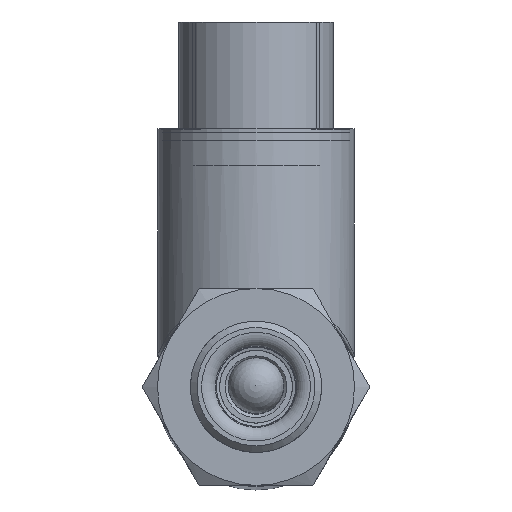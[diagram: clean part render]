
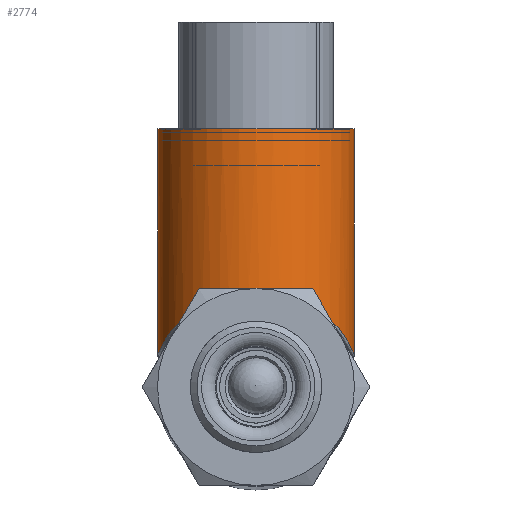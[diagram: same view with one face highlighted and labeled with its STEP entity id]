
A CAD part, top view. The second image highlights one B-rep face of the part: STEP entity #2774.
In plain terms, the highlighted cylindrical face has radius 9.525 mm (diameter 19.05 mm), a full revolution.
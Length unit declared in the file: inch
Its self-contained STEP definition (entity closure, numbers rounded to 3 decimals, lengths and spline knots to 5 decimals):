
#70=B_SPLINE_CURVE_WITH_KNOTS('',3,(#6441,#6442,#6443,#6444,#6445,#6446,
#6447,#6448,#6449,#6450,#6451,#6452,#6453,#6454,#6455,#6456,#6457,#6458,
#6459,#6460,#6461,#6462,#6463,#6464,#6465,#6466,#6467,#6468,#6469,#6470,
#6471,#6472),.UNSPECIFIED.,.F.,.F.,(4,1,1,1,1,1,1,1,1,1,1,1,1,1,1,1,1,1,
1,1,1,1,1,1,1,1,1,1,1,4),(-9.63701,-9.40756,-9.17811,
-8.7192,-8.41326,-8.26029,-8.10733,
-8.03084,-7.95436,-7.80139,-7.49545,
-7.18952,-7.03655,-6.88358,-6.57764,
-6.27171,-5.96577,-5.65983,-5.35389,-5.04796,
-4.89499,-4.81851,-4.74202,-4.58905,
-4.43608,-4.3596,-4.13015,-3.67124,
-3.44179,-3.21234),.UNSPECIFIED.);
#314=FACE_OUTER_BOUND('',#521,.T.);
#521=EDGE_LOOP('',(#1956,#1957,#1958,#1959));
#713=LINE('',#6522,#843);
#843=VECTOR('',#3698,0.375);
#1012=CIRCLE('',#3171,0.375);
#1210=VERTEX_POINT('',#6406);
#1214=VERTEX_POINT('',#6521);
#1483=EDGE_CURVE('',#1210,#1210,#70,.T.);
#1486=EDGE_CURVE('',#1214,#1210,#713,.T.);
#1487=EDGE_CURVE('',#1214,#1214,#1012,.T.);
#1956=ORIENTED_EDGE('',*,*,#1486,.F.);
#1957=ORIENTED_EDGE('',*,*,#1487,.F.);
#1958=ORIENTED_EDGE('',*,*,#1486,.T.);
#1959=ORIENTED_EDGE('',*,*,#1483,.F.);
#2491=CYLINDRICAL_SURFACE('',#3170,0.375);
#2774=ADVANCED_FACE('',(#314),#2491,.T.);
#3170=AXIS2_PLACEMENT_3D('',#6520,#3696,#3697);
#3171=AXIS2_PLACEMENT_3D('',#6523,#3699,#3700);
#3696=DIRECTION('center_axis',(0.,1.,0.));
#3697=DIRECTION('ref_axis',(0.,0.,1.));
#3698=DIRECTION('',(0.,-1.,0.));
#3699=DIRECTION('center_axis',(0.,1.,0.));
#3700=DIRECTION('ref_axis',(0.,0.,1.));
#6406=CARTESIAN_POINT('',(0.,0.3875,-3.57));
#6441=CARTESIAN_POINT('Ctrl Pts',(0.,0.3875,
-3.57));
#6442=CARTESIAN_POINT('Ctrl Pts',(0.03115,0.3875,
-3.57));
#6443=CARTESIAN_POINT('Ctrl Pts',(0.09334,0.38036,-3.56213));
#6444=CARTESIAN_POINT('Ctrl Pts',(0.20461,0.34112,-3.51842));
#6445=CARTESIAN_POINT('Ctrl Pts',(0.2932,0.27239,-3.44028));
#6446=CARTESIAN_POINT('Ctrl Pts',(0.34371,0.20217,-3.35171));
#6447=CARTESIAN_POINT('Ctrl Pts',(0.36561,0.15994,-3.28434));
#6448=CARTESIAN_POINT('Ctrl Pts',(0.37367,0.14038,-3.23654));
#6449=CARTESIAN_POINT('Ctrl Pts',(0.37544,0.13579,-3.195));
#6450=CARTESIAN_POINT('Ctrl Pts',(0.37368,0.14034,-3.15339));
#6451=CARTESIAN_POINT('Ctrl Pts',(0.3623,0.16811,-3.08673));
#6452=CARTESIAN_POINT('Ctrl Pts',(0.3297,0.22606,-3.00724));
#6453=CARTESIAN_POINT('Ctrl Pts',(0.27763,0.28269,-2.93851));
#6454=CARTESIAN_POINT('Ctrl Pts',(0.22289,0.32344,-2.89178));
#6455=CARTESIAN_POINT('Ctrl Pts',(0.15959,0.35862,-2.85194));
#6456=CARTESIAN_POINT('Ctrl Pts',(0.06403,0.38895,
-2.81842));
#6457=CARTESIAN_POINT('Ctrl Pts',(-0.06402,0.38896,
-2.81833));
#6458=CARTESIAN_POINT('Ctrl Pts',(-0.17872,0.35265,
-2.8587));
#6459=CARTESIAN_POINT('Ctrl Pts',(-0.26716,0.29414,-2.9248));
#6460=CARTESIAN_POINT('Ctrl Pts',(-0.32975,0.22599,
-3.00723));
#6461=CARTESIAN_POINT('Ctrl Pts',(-0.36229,0.16811,
-3.08679));
#6462=CARTESIAN_POINT('Ctrl Pts',(-0.37368,0.14035,
-3.15342));
#6463=CARTESIAN_POINT('Ctrl Pts',(-0.37544,0.1358,
-3.19502));
#6464=CARTESIAN_POINT('Ctrl Pts',(-0.37367,0.14039,
-3.23657));
#6465=CARTESIAN_POINT('Ctrl Pts',(-0.36558,0.15998,
-3.28433));
#6466=CARTESIAN_POINT('Ctrl Pts',(-0.35195,0.18625,
-3.32643));
#6467=CARTESIAN_POINT('Ctrl Pts',(-0.33102,0.21984,
-3.3739));
#6468=CARTESIAN_POINT('Ctrl Pts',(-0.28642,0.27758,
-3.44625));
#6469=CARTESIAN_POINT('Ctrl Pts',(-0.20457,0.34118,
-3.51848));
#6470=CARTESIAN_POINT('Ctrl Pts',(-0.09336,0.38033,
-3.5621));
#6471=CARTESIAN_POINT('Ctrl Pts',(-0.03115,0.3875,
-3.57));
#6472=CARTESIAN_POINT('Ctrl Pts',(0.,0.3875,
-3.57));
#6520=CARTESIAN_POINT('Origin',(0.,0.47,
-3.195));
#6521=CARTESIAN_POINT('',(0.,1.,-3.57));
#6522=CARTESIAN_POINT('',(0.,0.47,-3.57));
#6523=CARTESIAN_POINT('Origin',(0.,1.,
-3.195));
